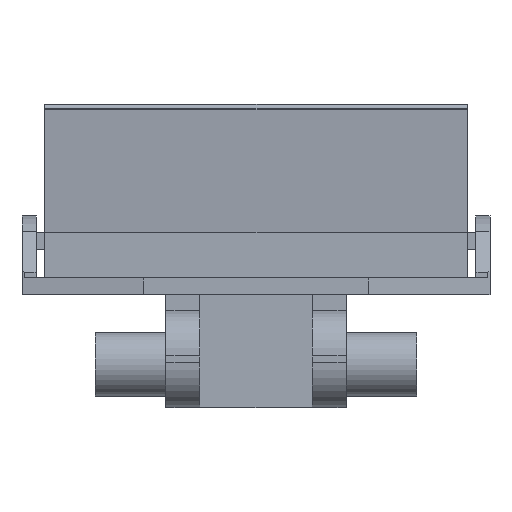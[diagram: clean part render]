
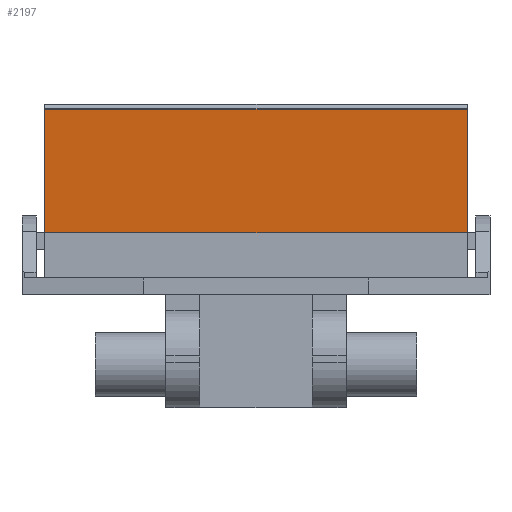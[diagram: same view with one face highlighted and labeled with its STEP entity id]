
A CAD part, front view. The second image highlights one B-rep face of the part: STEP entity #2197.
In plain terms, the highlighted planar face has unit normal (0, -0.996, -0.087).
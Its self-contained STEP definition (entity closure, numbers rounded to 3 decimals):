
#30 = LINE ( 'NONE', #1651, #2259 ) ;
#142 = CARTESIAN_POINT ( 'NONE',  ( 265.6, 180.6, 39.1 ) ) ;
#143 = VERTEX_POINT ( 'NONE', #142 ) ;
#222 = LINE ( 'NONE', #1323, #761 ) ;
#462 = VECTOR ( 'NONE', #2700, 1000. ) ;
#494 = DIRECTION ( 'NONE',  ( -1., 0., 0. ) ) ;
#495 = ORIENTED_EDGE ( 'NONE', *, *, #2809, .F. ) ;
#555 = LINE ( 'NONE', #3226, #3480 ) ;
#673 = CARTESIAN_POINT ( 'NONE',  ( 265.6, 178.687, 60.97 ) ) ;
#714 = CARTESIAN_POINT ( 'NONE',  ( 265.6, 180.6, 39.1 ) ) ;
#761 = VECTOR ( 'NONE', #1911, 1000. ) ;
#813 = AXIS2_PLACEMENT_3D ( 'NONE', #714, #3316, #3371 ) ;
#1031 = VERTEX_POINT ( 'NONE', #1208 ) ;
#1146 = CARTESIAN_POINT ( 'NONE',  ( 190.6, 180.6, 39.1 ) ) ;
#1205 = CARTESIAN_POINT ( 'NONE',  ( 265.6, 180.6, 39.1 ) ) ;
#1208 = CARTESIAN_POINT ( 'NONE',  ( 190.6, 178.687, 60.97 ) ) ;
#1323 = CARTESIAN_POINT ( 'NONE',  ( 190.6, 178.675, 61.1 ) ) ;
#1374 = EDGE_CURVE ( 'NONE', #143, #1965, #2507, .T. ) ;
#1490 = DIRECTION ( 'NONE',  ( 1., 0., 0. ) ) ;
#1651 = CARTESIAN_POINT ( 'NONE',  ( 265.6, 180.6, 39.1 ) ) ;
#1911 = DIRECTION ( 'NONE',  ( 0., 0.087, -0.996 ) ) ;
#1948 = EDGE_LOOP ( 'NONE', ( #495, #2737, #2398, #2946 ) ) ;
#1965 = VERTEX_POINT ( 'NONE', #673 ) ;
#2197 = ADVANCED_FACE ( 'NONE', ( #2428 ), #3618, .T. ) ;
#2259 = VECTOR ( 'NONE', #494, 1000. ) ;
#2388 = EDGE_CURVE ( 'NONE', #143, #2625, #30, .T. ) ;
#2398 = ORIENTED_EDGE ( 'NONE', *, *, #2388, .F. ) ;
#2428 = FACE_OUTER_BOUND ( 'NONE', #1948, .T. ) ;
#2507 = LINE ( 'NONE', #1205, #462 ) ;
#2625 = VERTEX_POINT ( 'NONE', #1146 ) ;
#2700 = DIRECTION ( 'NONE',  ( 0., -0.087, 0.996 ) ) ;
#2737 = ORIENTED_EDGE ( 'NONE', *, *, #3355, .T. ) ;
#2809 = EDGE_CURVE ( 'NONE', #1031, #1965, #555, .T. ) ;
#2946 = ORIENTED_EDGE ( 'NONE', *, *, #1374, .T. ) ;
#3226 = CARTESIAN_POINT ( 'NONE',  ( 280.6, 178.687, 60.97 ) ) ;
#3316 = DIRECTION ( 'NONE',  ( 0., -0.996, -0.087 ) ) ;
#3355 = EDGE_CURVE ( 'NONE', #1031, #2625, #222, .T. ) ;
#3371 = DIRECTION ( 'NONE',  ( 0., 0.087, -0.996 ) ) ;
#3480 = VECTOR ( 'NONE', #1490, 1000. ) ;
#3618 = PLANE ( 'NONE',  #813 ) ;
